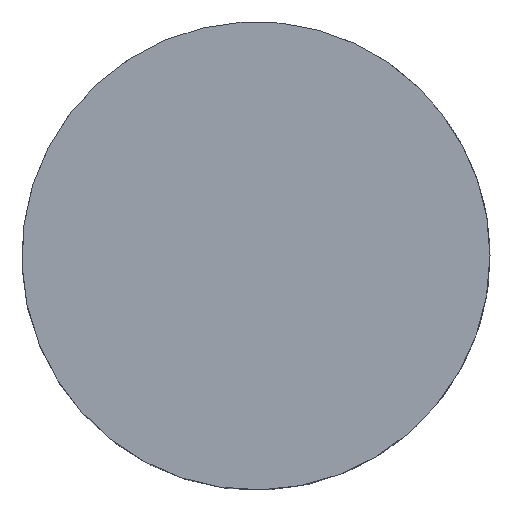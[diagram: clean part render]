
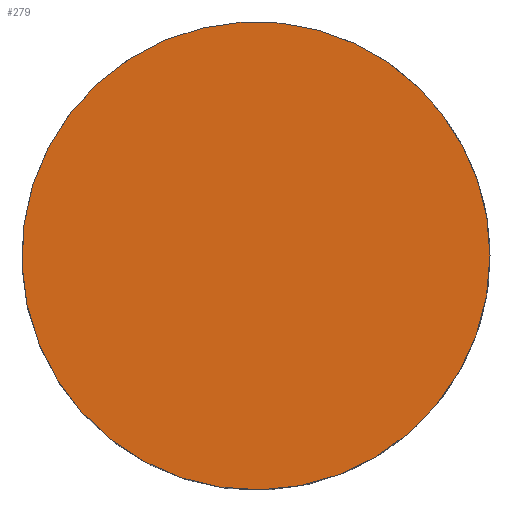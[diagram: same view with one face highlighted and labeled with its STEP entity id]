
A CAD part, top view. The second image highlights one B-rep face of the part: STEP entity #279.
In plain terms, the highlighted planar face has unit normal (0, 0, 1).
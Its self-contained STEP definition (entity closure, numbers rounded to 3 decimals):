
#46=PLANE('',#329);
#69=FACE_OUTER_BOUND('',#113,.T.);
#113=EDGE_LOOP('',(#240));
#138=CIRCLE('',#328,26.);
#166=VERTEX_POINT('',#502);
#192=EDGE_CURVE('',#166,#166,#138,.T.);
#240=ORIENTED_EDGE('',*,*,#192,.T.);
#279=ADVANCED_FACE('',(#69),#46,.T.);
#328=AXIS2_PLACEMENT_3D('',#503,#425,#426);
#329=AXIS2_PLACEMENT_3D('',#504,#427,#428);
#425=DIRECTION('center_axis',(0.,0.,1.));
#426=DIRECTION('ref_axis',(-1.,0.,0.));
#427=DIRECTION('center_axis',(0.,0.,1.));
#428=DIRECTION('ref_axis',(1.,0.,0.));
#502=CARTESIAN_POINT('',(26.,0.,32.));
#503=CARTESIAN_POINT('Origin',(0.,0.,32.));
#504=CARTESIAN_POINT('Origin',(0.,0.,32.));
